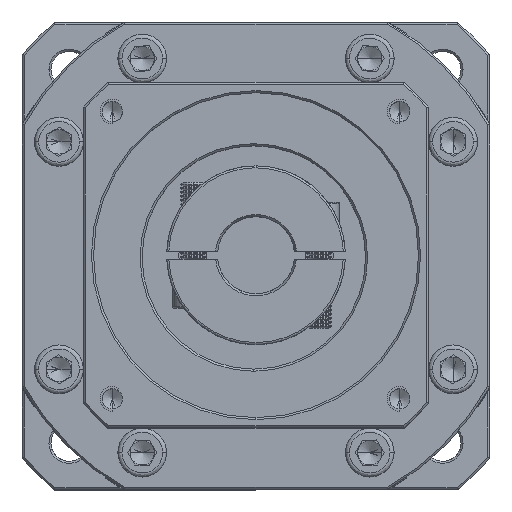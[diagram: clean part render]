
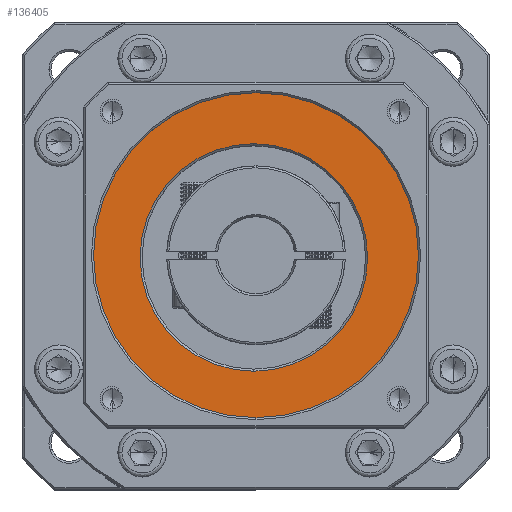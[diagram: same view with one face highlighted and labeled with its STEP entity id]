
A CAD part, top view. The second image highlights one B-rep face of the part: STEP entity #136405.
In plain terms, the highlighted planar face has unit normal (0, 0, 1).
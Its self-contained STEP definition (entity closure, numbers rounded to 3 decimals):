
#1012 = EDGE_CURVE ( 'NONE', #48786, #27155, #134477, .T. ) ;
#3826 = DIRECTION ( 'NONE',  ( 0., 1., 0. ) ) ;
#10065 = CIRCLE ( 'NONE', #52752, 40. ) ;
#15119 = CARTESIAN_POINT ( 'NONE',  ( 68.649, 48.125, 1.933 ) ) ;
#18254 = DIRECTION ( 'NONE',  ( 0., 1., 0. ) ) ;
#18384 = DIRECTION ( 'NONE',  ( 0., 0., 1. ) ) ;
#27155 = VERTEX_POINT ( 'NONE', #95686 ) ;
#29089 = AXIS2_PLACEMENT_3D ( 'NONE', #36553, #131306, #3826 ) ;
#31190 = FACE_BOUND ( 'NONE', #41264, .T. ) ;
#35781 = DIRECTION ( 'NONE',  ( 0., 1., 0. ) ) ;
#36553 = CARTESIAN_POINT ( 'NONE',  ( 69.184, 76.666, 1.933 ) ) ;
#37865 = DIRECTION ( 'NONE',  ( 0., 0., 1. ) ) ;
#39480 = EDGE_CURVE ( 'NONE', #54139, #138257, #118466, .T. ) ;
#41264 = EDGE_LOOP ( 'NONE', ( #109330, #131693 ) ) ;
#48786 = VERTEX_POINT ( 'NONE', #92128 ) ;
#52752 = AXIS2_PLACEMENT_3D ( 'NONE', #102970, #37865, #18254 ) ;
#54139 = VERTEX_POINT ( 'NONE', #15119 ) ;
#56696 = DIRECTION ( 'NONE',  ( 0., 0., -1. ) ) ;
#60568 = DIRECTION ( 'NONE',  ( 0., 1., 0. ) ) ;
#61603 = PLANE ( 'NONE',  #134670 ) ;
#62514 = CARTESIAN_POINT ( 'NONE',  ( 69.184, 76.666, 1.933 ) ) ;
#75700 = ORIENTED_EDGE ( 'NONE', *, *, #1012, .T. ) ;
#75767 = ORIENTED_EDGE ( 'NONE', *, *, #93416, .T. ) ;
#77671 = FACE_OUTER_BOUND ( 'NONE', #115285, .T. ) ;
#81947 = DIRECTION ( 'NONE',  ( 0., 0., -1. ) ) ;
#82613 = CARTESIAN_POINT ( 'NONE',  ( 68.649, 104.125, 1.933 ) ) ;
#82946 = CIRCLE ( 'NONE', #108108, 28. ) ;
#84183 = AXIS2_PLACEMENT_3D ( 'NONE', #123290, #81947, #60568 ) ;
#89142 = EDGE_CURVE ( 'NONE', #138257, #54139, #82946, .T. ) ;
#92128 = CARTESIAN_POINT ( 'NONE',  ( 69.184, 116.666, 1.933 ) ) ;
#93416 = EDGE_CURVE ( 'NONE', #27155, #48786, #10065, .T. ) ;
#94135 = DIRECTION ( 'NONE',  ( 0., 1., 0. ) ) ;
#95686 = CARTESIAN_POINT ( 'NONE',  ( 69.184, 36.666, 1.933 ) ) ;
#102970 = CARTESIAN_POINT ( 'NONE',  ( 69.184, 76.666, 1.933 ) ) ;
#108108 = AXIS2_PLACEMENT_3D ( 'NONE', #131923, #56696, #35781 ) ;
#109330 = ORIENTED_EDGE ( 'NONE', *, *, #89142, .T. ) ;
#115285 = EDGE_LOOP ( 'NONE', ( #75700, #75767 ) ) ;
#118466 = CIRCLE ( 'NONE', #84183, 28. ) ;
#123290 = CARTESIAN_POINT ( 'NONE',  ( 68.649, 76.125, 1.933 ) ) ;
#131306 = DIRECTION ( 'NONE',  ( 0., 0., 1. ) ) ;
#131693 = ORIENTED_EDGE ( 'NONE', *, *, #39480, .T. ) ;
#131923 = CARTESIAN_POINT ( 'NONE',  ( 68.649, 76.125, 1.933 ) ) ;
#134477 = CIRCLE ( 'NONE', #29089, 40. ) ;
#134670 = AXIS2_PLACEMENT_3D ( 'NONE', #62514, #18384, #94135 ) ;
#136405 = ADVANCED_FACE ( 'NONE', ( #77671, #31190 ), #61603, .T. ) ;
#138257 = VERTEX_POINT ( 'NONE', #82613 ) ;
